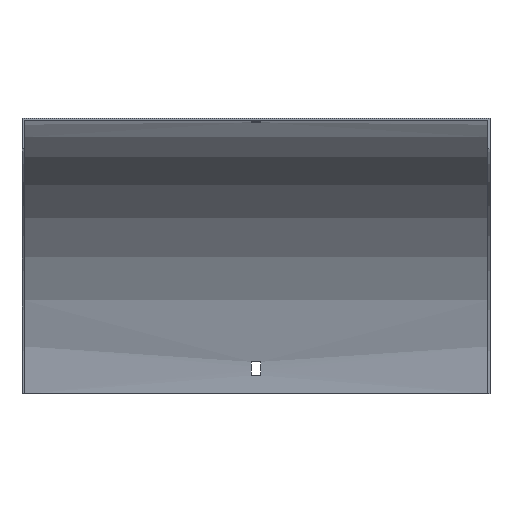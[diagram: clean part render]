
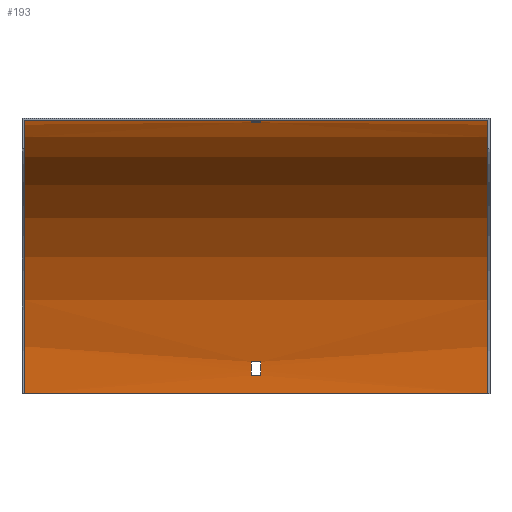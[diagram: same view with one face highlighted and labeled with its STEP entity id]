
A CAD part, top view. The second image highlights one B-rep face of the part: STEP entity #193.
In plain terms, the highlighted cylindrical face has radius 179 mm (diameter 358 mm), a partial arc.
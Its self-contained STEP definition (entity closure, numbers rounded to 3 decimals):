
#3 = LINE ( 'NONE', #40, #591 ) ;
#4 = EDGE_CURVE ( 'NONE', #557, #395, #3, .T. ) ;
#6 = DIRECTION ( 'NONE',  ( 1., 0., 0. ) ) ;
#7 = AXIS2_PLACEMENT_3D ( 'NONE', #484, #439, #296 ) ;
#9 = DIRECTION ( 'NONE',  ( 1., 0., 0. ) ) ;
#16 = ORIENTED_EDGE ( 'NONE', *, *, #501, .F. ) ;
#20 = EDGE_CURVE ( 'NONE', #178, #557, #482, .T. ) ;
#21 = DIRECTION ( 'NONE',  ( 0., 0., 1. ) ) ;
#40 = CARTESIAN_POINT ( 'NONE',  ( 153.5, -159.5, -177.764 ) ) ;
#57 = LINE ( 'NONE', #277, #525 ) ;
#60 = LINE ( 'NONE', #235, #290 ) ;
#65 = CARTESIAN_POINT ( 'NONE',  ( 152., -180.5, -179. ) ) ;
#73 = VERTEX_POINT ( 'NONE', #519 ) ;
#92 = EDGE_LOOP ( 'NONE', ( #368, #388, #216, #492 ) ) ;
#95 = CARTESIAN_POINT ( 'NONE',  ( -152., -180.5, 0. ) ) ;
#113 = DIRECTION ( 'NONE',  ( 0., 0., 1. ) ) ;
#119 = CARTESIAN_POINT ( 'NONE',  ( 152., -1.5, 0. ) ) ;
#132 = AXIS2_PLACEMENT_3D ( 'NONE', #312, #9, #175 ) ;
#139 = ORIENTED_EDGE ( 'NONE', *, *, #215, .T. ) ;
#151 = VERTEX_POINT ( 'NONE', #159 ) ;
#152 = AXIS2_PLACEMENT_3D ( 'NONE', #533, #247, #21 ) ;
#157 = LINE ( 'NONE', #498, #535 ) ;
#159 = CARTESIAN_POINT ( 'NONE',  ( 3.25, -2.736, -21. ) ) ;
#175 = DIRECTION ( 'NONE',  ( 0., 0., -1. ) ) ;
#178 = VERTEX_POINT ( 'NONE', #540 ) ;
#193 = ADVANCED_FACE ( 'NONE', ( #294, #401, #393 ), #202, .F. ) ;
#194 = DIRECTION ( 'NONE',  ( 0., 0., -1. ) ) ;
#202 = CYLINDRICAL_SURFACE ( 'NONE', #424, 179. ) ;
#210 = CARTESIAN_POINT ( 'NONE',  ( -3.25, -2.736, -21. ) ) ;
#212 = DIRECTION ( 'NONE',  ( -1., 0., 0. ) ) ;
#215 = EDGE_CURVE ( 'NONE', #531, #597, #157, .T. ) ;
#216 = ORIENTED_EDGE ( 'NONE', *, *, #4, .T. ) ;
#218 = CARTESIAN_POINT ( 'NONE',  ( -3.25, -159.5, -177.764 ) ) ;
#225 = EDGE_CURVE ( 'NONE', #151, #581, #360, .T. ) ;
#227 = EDGE_CURVE ( 'NONE', #395, #522, #444, .T. ) ;
#230 = VERTEX_POINT ( 'NONE', #65 ) ;
#231 = CIRCLE ( 'NONE', #565, 179. ) ;
#232 = EDGE_CURVE ( 'NONE', #230, #531, #343, .T. ) ;
#235 = CARTESIAN_POINT ( 'NONE',  ( 153.5, -1.903, -12. ) ) ;
#238 = VERTEX_POINT ( 'NONE', #210 ) ;
#247 = DIRECTION ( 'NONE',  ( 1., 0., 0. ) ) ;
#255 = AXIS2_PLACEMENT_3D ( 'NONE', #95, #473, #532 ) ;
#264 = AXIS2_PLACEMENT_3D ( 'NONE', #536, #446, #194 ) ;
#269 = DIRECTION ( 'NONE',  ( 1., 0., 0. ) ) ;
#277 = CARTESIAN_POINT ( 'NONE',  ( 153.5, -2.736, -21. ) ) ;
#284 = LINE ( 'NONE', #476, #353 ) ;
#290 = VECTOR ( 'NONE', #326, 1000. ) ;
#291 = DIRECTION ( 'NONE',  ( -1., 0., 0. ) ) ;
#294 = FACE_BOUND ( 'NONE', #490, .T. ) ;
#296 = DIRECTION ( 'NONE',  ( 0., 0., 1. ) ) ;
#312 = CARTESIAN_POINT ( 'NONE',  ( -3.25, -180.5, 0. ) ) ;
#326 = DIRECTION ( 'NONE',  ( -1., 0., 0. ) ) ;
#327 = EDGE_CURVE ( 'NONE', #73, #238, #231, .T. ) ;
#343 = CIRCLE ( 'NONE', #152, 179. ) ;
#345 = DIRECTION ( 'NONE',  ( -1., 0., 0. ) ) ;
#353 = VECTOR ( 'NONE', #481, 1000. ) ;
#360 = CIRCLE ( 'NONE', #264, 179. ) ;
#368 = ORIENTED_EDGE ( 'NONE', *, *, #458, .T. ) ;
#383 = ORIENTED_EDGE ( 'NONE', *, *, #435, .F. ) ;
#387 = CARTESIAN_POINT ( 'NONE',  ( 3.25, -168.5, -178.597 ) ) ;
#388 = ORIENTED_EDGE ( 'NONE', *, *, #20, .T. ) ;
#393 = FACE_BOUND ( 'NONE', #92, .T. ) ;
#394 = CARTESIAN_POINT ( 'NONE',  ( 152., -180.5, -179. ) ) ;
#395 = VERTEX_POINT ( 'NONE', #408 ) ;
#401 = FACE_OUTER_BOUND ( 'NONE', #430, .T. ) ;
#402 = EDGE_CURVE ( 'NONE', #238, #151, #57, .T. ) ;
#408 = CARTESIAN_POINT ( 'NONE',  ( 3.25, -159.5, -177.764 ) ) ;
#410 = CARTESIAN_POINT ( 'NONE',  ( 3.25, -1.903, -12. ) ) ;
#413 = EDGE_CURVE ( 'NONE', #581, #73, #60, .T. ) ;
#421 = CARTESIAN_POINT ( 'NONE',  ( -152., -1.5, 0. ) ) ;
#424 = AXIS2_PLACEMENT_3D ( 'NONE', #589, #345, #113 ) ;
#427 = ORIENTED_EDGE ( 'NONE', *, *, #327, .F. ) ;
#430 = EDGE_LOOP ( 'NONE', ( #383, #16, #440, #139 ) ) ;
#435 = EDGE_CURVE ( 'NONE', #579, #597, #545, .T. ) ;
#439 = DIRECTION ( 'NONE',  ( -1., 0., 0. ) ) ;
#440 = ORIENTED_EDGE ( 'NONE', *, *, #232, .T. ) ;
#444 = CIRCLE ( 'NONE', #7, 179. ) ;
#446 = DIRECTION ( 'NONE',  ( 1., 0., 0. ) ) ;
#447 = ORIENTED_EDGE ( 'NONE', *, *, #402, .F. ) ;
#456 = CARTESIAN_POINT ( 'NONE',  ( -152., -180.5, -179. ) ) ;
#458 = EDGE_CURVE ( 'NONE', #522, #178, #284, .T. ) ;
#469 = ORIENTED_EDGE ( 'NONE', *, *, #413, .F. ) ;
#473 = DIRECTION ( 'NONE',  ( 1., 0., 0. ) ) ;
#476 = CARTESIAN_POINT ( 'NONE',  ( 153.5, -168.5, -178.597 ) ) ;
#481 = DIRECTION ( 'NONE',  ( -1., 0., 0. ) ) ;
#482 = CIRCLE ( 'NONE', #132, 179. ) ;
#484 = CARTESIAN_POINT ( 'NONE',  ( 3.25, -180.5, 0. ) ) ;
#489 = LINE ( 'NONE', #394, #594 ) ;
#490 = EDGE_LOOP ( 'NONE', ( #427, #469, #534, #447 ) ) ;
#492 = ORIENTED_EDGE ( 'NONE', *, *, #227, .T. ) ;
#498 = CARTESIAN_POINT ( 'NONE',  ( 152., -1.5, 0. ) ) ;
#501 = EDGE_CURVE ( 'NONE', #230, #579, #489, .T. ) ;
#512 = CARTESIAN_POINT ( 'NONE',  ( -3.25, -180.5, 0. ) ) ;
#519 = CARTESIAN_POINT ( 'NONE',  ( -3.25, -1.903, -12. ) ) ;
#522 = VERTEX_POINT ( 'NONE', #387 ) ;
#525 = VECTOR ( 'NONE', #6, 1000. ) ;
#531 = VERTEX_POINT ( 'NONE', #119 ) ;
#532 = DIRECTION ( 'NONE',  ( 0., 0., 1. ) ) ;
#533 = CARTESIAN_POINT ( 'NONE',  ( 152., -180.5, 0. ) ) ;
#534 = ORIENTED_EDGE ( 'NONE', *, *, #225, .F. ) ;
#535 = VECTOR ( 'NONE', #291, 1000. ) ;
#536 = CARTESIAN_POINT ( 'NONE',  ( 3.25, -180.5, 0. ) ) ;
#540 = CARTESIAN_POINT ( 'NONE',  ( -3.25, -168.5, -178.597 ) ) ;
#543 = DIRECTION ( 'NONE',  ( -1., 0., 0. ) ) ;
#545 = CIRCLE ( 'NONE', #255, 179. ) ;
#553 = DIRECTION ( 'NONE',  ( 0., 0., 1. ) ) ;
#557 = VERTEX_POINT ( 'NONE', #218 ) ;
#565 = AXIS2_PLACEMENT_3D ( 'NONE', #512, #212, #553 ) ;
#579 = VERTEX_POINT ( 'NONE', #456 ) ;
#581 = VERTEX_POINT ( 'NONE', #410 ) ;
#589 = CARTESIAN_POINT ( 'NONE',  ( 153.5, -180.5, 0. ) ) ;
#591 = VECTOR ( 'NONE', #269, 1000. ) ;
#594 = VECTOR ( 'NONE', #543, 1000. ) ;
#597 = VERTEX_POINT ( 'NONE', #421 ) ;
